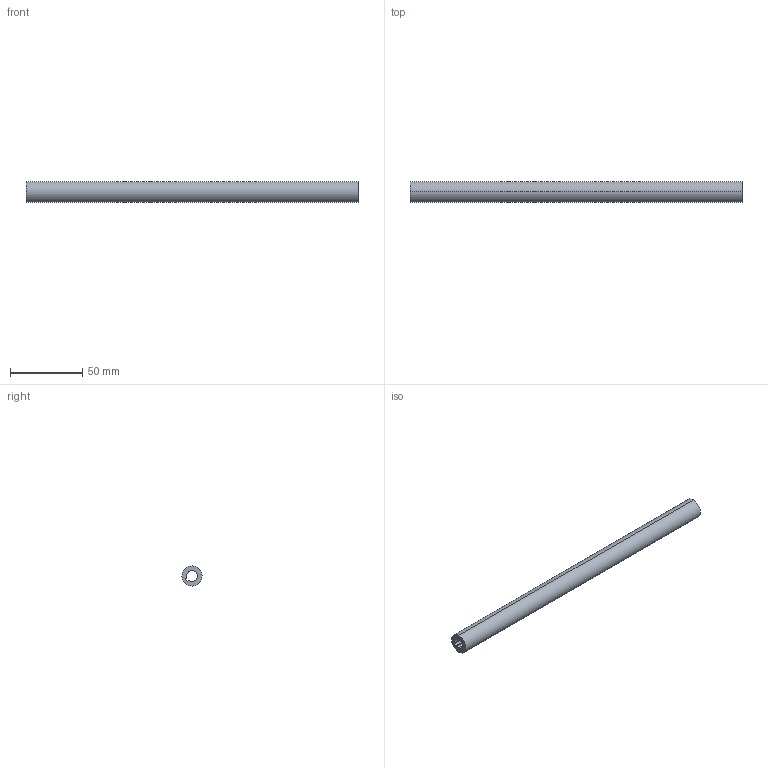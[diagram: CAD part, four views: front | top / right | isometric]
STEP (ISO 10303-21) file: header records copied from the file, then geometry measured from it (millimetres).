
FILE_DESCRIPTION (( 'STEP AP214' ), '1' );
FILE_NAME ('SyncronisationsstangeNova_Pro_KAB_0350_KS16.step', '2009-11-24T08:53:13', ( 'Grass' ), ( 'Grass GmbH' ), 'SwSTEP 2.0', 'SolidWorks 2009', '' );
FILE_SCHEMA (( 'AUTOMOTIVE_DESIGN' ));
Length unit declared in the file: millimetre
Products named in the file (1): SyncronisationsstangeNova_Pro_KAB_0350_KS16
Bounding box: 229 x 14 x 14 mm (x, y, z)
Volume: 24761.7 mm3; surface area: 16123.3 mm2
Topology: 1 solids, 1 shells, 15 faces, 39 edges, 26 vertices
Faces by surface type: cylinder 11, plane 4
Entity records: 513 total; most frequent: DIRECTION 93, CARTESIAN_POINT 81, ORIENTED_EDGE 78, EDGE_CURVE 39, AXIS2_PLACEMENT_3D 38, VERTEX_POINT 26, CIRCLE 22, VECTOR 17
